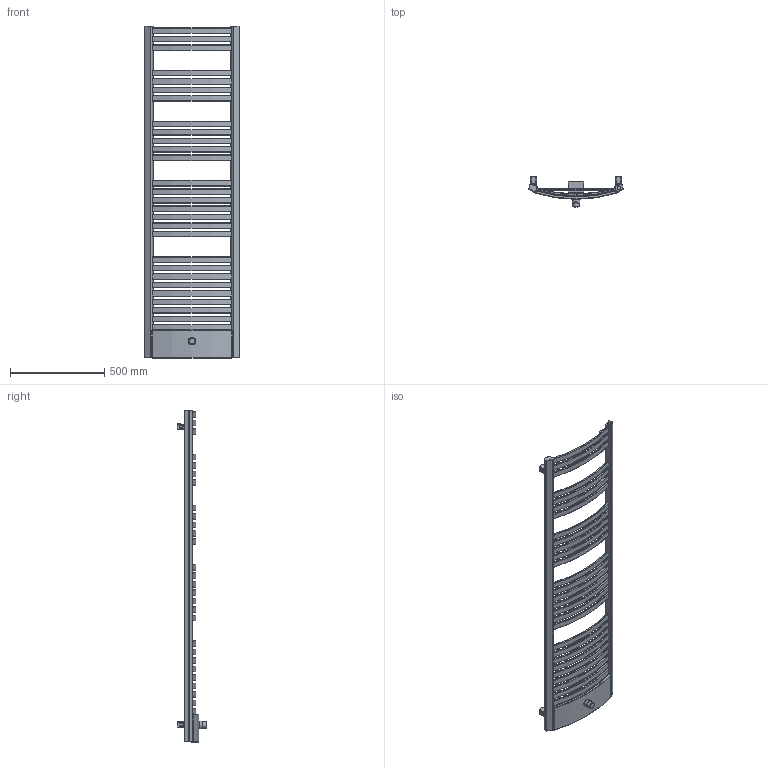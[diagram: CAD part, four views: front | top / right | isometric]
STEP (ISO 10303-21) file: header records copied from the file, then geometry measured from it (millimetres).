
FILE_DESCRIPTION((''),'2;1');
FILE_NAME('Z:\R\G\P\RGPH08 - Grzejnik Dexter pro\Work\Inventor\Dexter Pro v6.1\Marketing\STEP\DP-17-50-ZX.stp','2012-07-24T09:45:34',('PioRo'),(''),'Autodesk Inventor 2012','Autodesk Inventor 2012','');
FILE_SCHEMA(('AUTOMOTIVE_DESIGN { 1 0 10303 214 1 1 1 1 }'));
Length unit declared in the file: millimetre
Products named in the file (1): Część3
Bounding box: 500.09 x 158.18 x 1762 mm (x, y, z)
Volume: 8307026.9 mm3; surface area: 1664705.8 mm2
Topology: 1 solids, 4 shells, 679 faces, 1803 edges, 1153 vertices
Faces by surface type: plane 277, cylinder 211, torus 151, bspline 32, cone 6, sphere 2
Full cylindrical faces by diameter (mm): 7 x3, 18.631 x3, 32.4 x1, 33 x1, 34 x2, 35 x2, 36 x1, 36.4 x1, 36.6 x1, 37.2 x1, 40 x1
Entity records: 24608 total; most frequent: CARTESIAN_POINT 7341, ORIENTED_EDGE 3534, DIRECTION 3313, EDGE_CURVE 1767, AXIS2_PLACEMENT_3D 1230, VERTEX_POINT 1142, VECTOR 853, LINE 853
